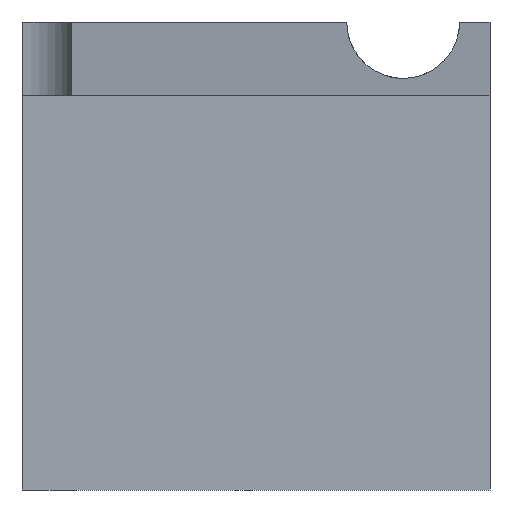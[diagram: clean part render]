
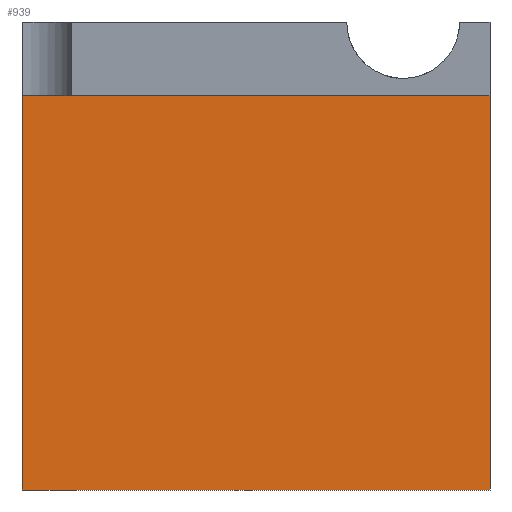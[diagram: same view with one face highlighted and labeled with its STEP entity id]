
A CAD part, front view. The second image highlights one B-rep face of the part: STEP entity #939.
In plain terms, the highlighted planar face has unit normal (0, -1, 0).
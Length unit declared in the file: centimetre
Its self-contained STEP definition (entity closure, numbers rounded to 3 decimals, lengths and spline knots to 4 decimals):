
#3 = LINE ( 'NONE', #303, #897 ) ;
#4 = CARTESIAN_POINT ( 'NONE',  ( 1000., 0., 842.8735 ) ) ;
#18 = VERTEX_POINT ( 'NONE', #4 ) ;
#45 = CARTESIAN_POINT ( 'NONE',  ( 0., 0., 1000. ) ) ;
#91 = ORIENTED_EDGE ( 'NONE', *, *, #631, .T. ) ;
#93 = CARTESIAN_POINT ( 'NONE',  ( 1000., 0., 1000. ) ) ;
#121 = DIRECTION ( 'NONE',  ( 0., 1., 0. ) ) ;
#157 = LINE ( 'NONE', #388, #948 ) ;
#158 = AXIS2_PLACEMENT_3D ( 'NONE', #45, #121, #190 ) ;
#185 = VERTEX_POINT ( 'NONE', #323 ) ;
#190 = DIRECTION ( 'NONE',  ( 0., 0., 1. ) ) ;
#226 = EDGE_CURVE ( 'NONE', #879, #185, #157, .T. ) ;
#243 = CARTESIAN_POINT ( 'NONE',  ( 0., 0., 0. ) ) ;
#252 = PLANE ( 'NONE',  #158 ) ;
#253 = CARTESIAN_POINT ( 'NONE',  ( 0., 0., 842.8735 ) ) ;
#303 = CARTESIAN_POINT ( 'NONE',  ( 0., 0., 1000. ) ) ;
#313 = DIRECTION ( 'NONE',  ( 1., 0., 0. ) ) ;
#323 = CARTESIAN_POINT ( 'NONE',  ( 1000., 0., 0. ) ) ;
#347 = ORIENTED_EDGE ( 'NONE', *, *, #226, .T. ) ;
#388 = CARTESIAN_POINT ( 'NONE',  ( 0., 0., 0. ) ) ;
#413 = VECTOR ( 'NONE', #695, 100. ) ;
#422 = ORIENTED_EDGE ( 'NONE', *, *, #892, .F. ) ;
#447 = CARTESIAN_POINT ( 'NONE',  ( 0., 0., 842.8735 ) ) ;
#453 = VECTOR ( 'NONE', #946, 100. ) ;
#478 = FACE_OUTER_BOUND ( 'NONE', #717, .T. ) ;
#557 = LINE ( 'NONE', #253, #453 ) ;
#602 = DIRECTION ( 'NONE',  ( 0., 0., -1. ) ) ;
#631 = EDGE_CURVE ( 'NONE', #772, #879, #3, .T. ) ;
#642 = ORIENTED_EDGE ( 'NONE', *, *, #661, .F. ) ;
#661 = EDGE_CURVE ( 'NONE', #772, #18, #557, .T. ) ;
#695 = DIRECTION ( 'NONE',  ( 0., 0., -1. ) ) ;
#717 = EDGE_LOOP ( 'NONE', ( #642, #91, #347, #422 ) ) ;
#772 = VERTEX_POINT ( 'NONE', #447 ) ;
#778 = LINE ( 'NONE', #93, #413 ) ;
#879 = VERTEX_POINT ( 'NONE', #243 ) ;
#892 = EDGE_CURVE ( 'NONE', #18, #185, #778, .T. ) ;
#897 = VECTOR ( 'NONE', #602, 100. ) ;
#939 = ADVANCED_FACE ( 'NONE', ( #478 ), #252, .F. ) ;
#946 = DIRECTION ( 'NONE',  ( 1., 0., 0. ) ) ;
#948 = VECTOR ( 'NONE', #313, 100. ) ;
